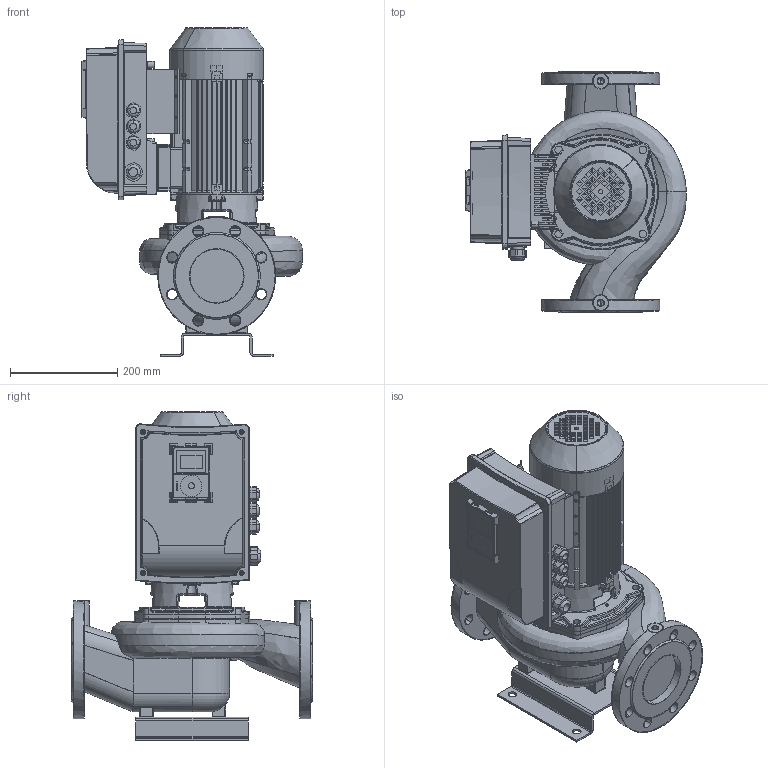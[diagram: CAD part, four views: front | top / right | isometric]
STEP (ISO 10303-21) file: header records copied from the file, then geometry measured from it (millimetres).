
FILE_DESCRIPTION(('STEP AP214'),'1');
FILE_NAME('export.stp','2018-06-01T12:38:35',(' '),(' '),'Spatial InterOp 3D',' ',' ');
FILE_SCHEMA(('AUTOMOTIVE_DESIGN { 1 0 10303 214 1 1 1 1 }'));
Length unit declared in the file: millimetre
Products named in the file (26): 160024; 160004_Valu; V_MKP90-2-F19_VS; 480039; 480038___; 480037; 480036___; 160135; SOVITUSPALA; Vacon_MS2; G43699; Vacon20CP_MS2; MS2_bottom_final; P101407; MS2_cover_final; Vacon_Display; CAD-3D-VACON-M100-Display.sldasm; Vacon_display_pla; Vacon_display_scr; DIN_966-M5x10; M20_tiivisteholkk; M25_tiivisteholkk; W_AL11024150_KPVS; V_TLL65AB80A1102; V_PPAL1102; V_JALKA35973
Assembly tree (30 placements, depth 6):
  W_AL11024150_KPVS
    V_MKP90-2-F19_VS
      160024
        160004_Valu
      480039
        480038___
      480037
        480036___
      160135
      SOVITUSPALA
      Vacon_MS2
        G43699
        Vacon20CP_MS2
          MS2_bottom_final
          P101407
          MS2_cover_final
          Vacon_Display
            CAD-3D-VACON-M100-Display.sldasm
            Vacon_display_pla
            Vacon_display_scr
          DIN_966-M5x10  x4
          M20_tiivisteholkk  x3
          M25_tiivisteholkk
    V_TLL65AB80A1102
    V_PPAL1102
    V_JALKA35973
Bounding box: 412.31 x 450 x 613 mm (x, y, z)
Volume: 4225441.1 mm3; surface area: 2880192.9 mm2
Topology: 22 solids, 1495 shells, 5278 faces, 17913 edges, 14075 vertices
Faces by surface type: bspline 1801, plane 1422, cylinder 1240, torus 447, cone 284, sphere 76, offset 8
Entity records: 250502 total; most frequent: CARTESIAN_POINT 103670, ORIENTED_EDGE 26834, DIRECTION 18389, EDGE_CURVE 17239, VERTEX_POINT 13757, B_SPLINE_CURVE_WITH_KNOTS 7870, AXIS2_PLACEMENT_3D 7084, EDGE_LOOP 5588
